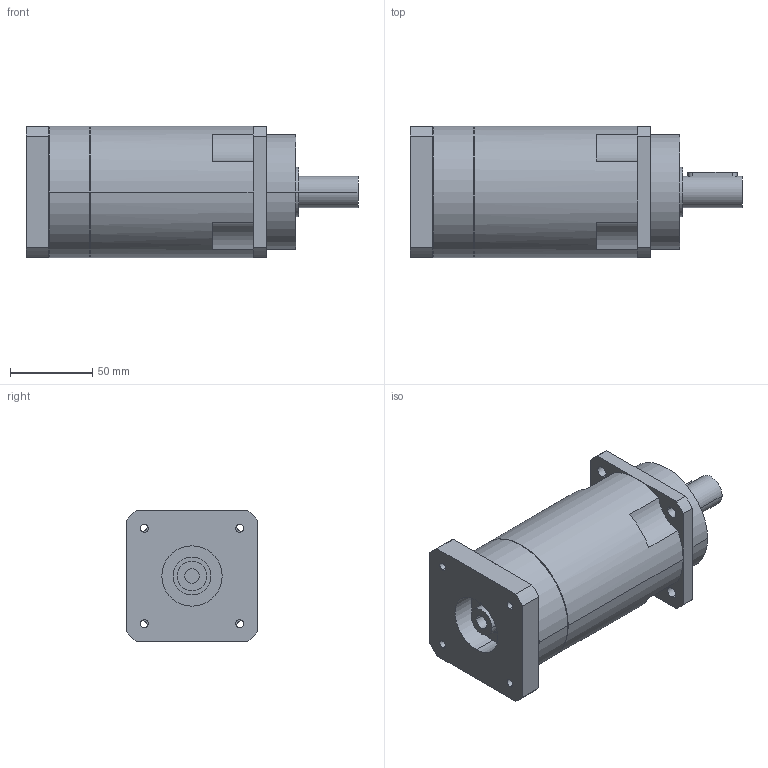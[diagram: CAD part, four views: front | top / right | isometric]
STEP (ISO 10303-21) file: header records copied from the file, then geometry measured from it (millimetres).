
FILE_DESCRIPTION(('CoCreate Modeling STEP Export'),'2;1');
FILE_NAME('GPR100_ig-48-64-80-100-120-144-180-216_19_B5_9_P27.stp','2014-08-26T13:05:26',(''),(''),'CoCreate Modeling STEP processor for AP214 (Solid Model)','CoCreate Modeling 16.00C 25-Feb-2009 (C) Parametric Technology GmbH','');
FILE_SCHEMA(('AUTOMOTIVE_DESIGN { 1 0 10303 214 1 1 1 1 }'));
Length unit declared in the file: millimetre
Products named in the file (2): GPR100_ig-48-64-80-100-120-144-180-216_19_B5_9_P27
Assembly tree (1 placements, depth 2):
  GPR100_ig-48-64-80-100-120-144-180-216_19_B5_9_P27
    GPR100_ig-48-64-80-100-120-144-180-216_19_B5_9_P27
Bounding box: 202.4 x 80 x 80 mm (x, y, z)
Volume: 820468.9 mm3; surface area: 65073.2 mm2
Topology: 1 solids, 1 shells, 90 faces, 262 edges, 178 vertices
Faces by surface type: cylinder 50, plane 34, cone 6
Entity records: 2785 total; most frequent: CARTESIAN_POINT 586, ORIENTED_EDGE 520, DIRECTION 386, EDGE_CURVE 260, VERTEX_POINT 178, AXIS2_PLACEMENT_3D 146, EDGE_LOOP 112, VECTOR 94
